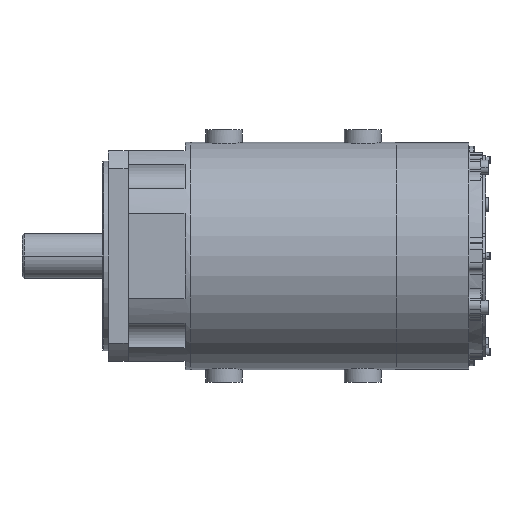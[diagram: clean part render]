
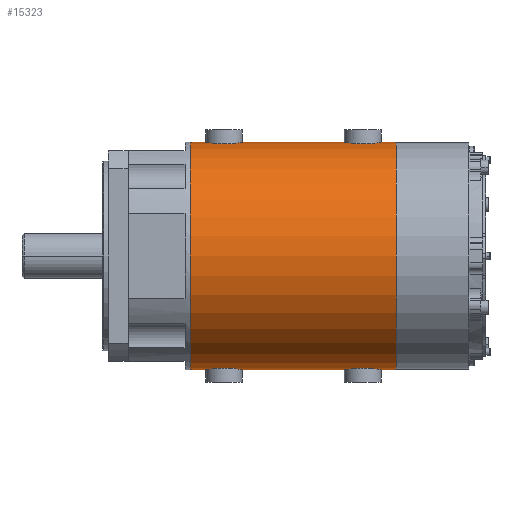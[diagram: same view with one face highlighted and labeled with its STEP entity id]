
A CAD part, front view. The second image highlights one B-rep face of the part: STEP entity #15323.
In plain terms, the highlighted cylindrical face has radius 108 mm (diameter 216 mm), a partial arc.
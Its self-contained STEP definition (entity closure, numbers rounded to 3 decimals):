
#12156=CARTESIAN_POINT('',(120.,0.,108.));
#12157=CARTESIAN_POINT('',(120.,-0.801,108.));
#12158=CARTESIAN_POINT('',(119.817,-2.364,
107.983));
#12159=CARTESIAN_POINT('',(118.944,-4.698,
107.905));
#12160=CARTESIAN_POINT('',(117.552,-6.697,
107.797));
#12161=CARTESIAN_POINT('',(115.777,-8.282,
107.685));
#12162=CARTESIAN_POINT('',(113.577,-9.45,
107.587));
#12163=CARTESIAN_POINT('',(111.175,-10.026,
107.534));
#12164=CARTESIAN_POINT('',(108.819,-10.025,
107.534));
#12165=CARTESIAN_POINT('',(106.42,-9.449,
107.587));
#12166=CARTESIAN_POINT('',(104.215,-8.277,
107.685));
#12167=CARTESIAN_POINT('',(102.435,-6.682,
107.798));
#12168=CARTESIAN_POINT('',(101.054,-4.691,
107.906));
#12169=CARTESIAN_POINT('',(100.183,-2.363,
107.983));
#12170=CARTESIAN_POINT('',(100.,-0.801,108.));
#12171=CARTESIAN_POINT('',(100.,0.,108.));
#12173=CARTESIAN_POINT('',(252.,0.,108.));
#12174=CARTESIAN_POINT('',(252.,-0.801,108.));
#12175=CARTESIAN_POINT('',(251.817,-2.364,
107.983));
#12176=CARTESIAN_POINT('',(250.944,-4.698,
107.905));
#12177=CARTESIAN_POINT('',(249.552,-6.697,
107.797));
#12178=CARTESIAN_POINT('',(247.777,-8.282,
107.685));
#12179=CARTESIAN_POINT('',(245.577,-9.45,
107.587));
#12180=CARTESIAN_POINT('',(243.175,-10.026,
107.534));
#12181=CARTESIAN_POINT('',(240.819,-10.025,
107.534));
#12182=CARTESIAN_POINT('',(238.42,-9.449,
107.587));
#12183=CARTESIAN_POINT('',(236.215,-8.277,
107.685));
#12184=CARTESIAN_POINT('',(234.435,-6.682,
107.798));
#12185=CARTESIAN_POINT('',(233.054,-4.691,
107.906));
#12186=CARTESIAN_POINT('',(232.183,-2.363,
107.983));
#12187=CARTESIAN_POINT('',(232.,-0.801,108.));
#12188=CARTESIAN_POINT('',(232.,0.,108.));
#12190=CARTESIAN_POINT('',(274.,0.,0.));
#12191=DIRECTION('',(1.,0.,0.));
#12192=DIRECTION('',(0.,0.,1.));
#12193=AXIS2_PLACEMENT_3D('',#12190,#12191,#12192);
#12195=DIRECTION('',(-1.,0.,0.));
#12196=VECTOR('',#12195,22.);
#12197=CARTESIAN_POINT('',(274.,0.,-108.));
#12198=LINE('',#12197,#12196);
#12199=CARTESIAN_POINT('',(232.,0.,-108.));
#12200=CARTESIAN_POINT('',(232.,-0.801,-108.));
#12201=CARTESIAN_POINT('',(232.183,-2.363,
-107.983));
#12202=CARTESIAN_POINT('',(233.054,-4.691,
-107.906));
#12203=CARTESIAN_POINT('',(234.435,-6.682,
-107.798));
#12204=CARTESIAN_POINT('',(236.215,-8.277,
-107.685));
#12205=CARTESIAN_POINT('',(238.419,-9.448,
-107.587));
#12206=CARTESIAN_POINT('',(240.818,-10.025,
-107.534));
#12207=CARTESIAN_POINT('',(243.175,-10.026,
-107.534));
#12208=CARTESIAN_POINT('',(245.577,-9.45,
-107.587));
#12209=CARTESIAN_POINT('',(247.777,-8.282,
-107.685));
#12210=CARTESIAN_POINT('',(249.552,-6.697,
-107.797));
#12211=CARTESIAN_POINT('',(250.944,-4.698,
-107.905));
#12212=CARTESIAN_POINT('',(251.817,-2.364,
-107.983));
#12213=CARTESIAN_POINT('',(252.,-0.801,-108.));
#12214=CARTESIAN_POINT('',(252.,0.,-108.));
#12216=DIRECTION('',(-1.,0.,0.));
#12217=VECTOR('',#12216,112.);
#12218=CARTESIAN_POINT('',(232.,0.,-108.));
#12219=LINE('',#12218,#12217);
#12220=CARTESIAN_POINT('',(100.,0.,-108.));
#12221=CARTESIAN_POINT('',(100.,-0.801,-108.));
#12222=CARTESIAN_POINT('',(100.183,-2.363,
-107.983));
#12223=CARTESIAN_POINT('',(101.054,-4.691,
-107.906));
#12224=CARTESIAN_POINT('',(102.435,-6.682,
-107.798));
#12225=CARTESIAN_POINT('',(104.215,-8.277,
-107.685));
#12226=CARTESIAN_POINT('',(106.419,-9.448,
-107.587));
#12227=CARTESIAN_POINT('',(108.818,-10.025,
-107.534));
#12228=CARTESIAN_POINT('',(111.175,-10.026,
-107.534));
#12229=CARTESIAN_POINT('',(113.577,-9.45,
-107.587));
#12230=CARTESIAN_POINT('',(115.777,-8.282,
-107.685));
#12231=CARTESIAN_POINT('',(117.552,-6.697,
-107.797));
#12232=CARTESIAN_POINT('',(118.944,-4.698,
-107.905));
#12233=CARTESIAN_POINT('',(119.817,-2.364,
-107.983));
#12234=CARTESIAN_POINT('',(120.,-0.801,-108.));
#12235=CARTESIAN_POINT('',(120.,0.,-108.));
#12237=DIRECTION('',(-1.,0.,0.));
#12238=VECTOR('',#12237,22.);
#12239=CARTESIAN_POINT('',(100.,0.,-108.));
#12240=LINE('',#12239,#12238);
#12241=CARTESIAN_POINT('',(78.,0.,0.));
#12242=DIRECTION('',(-1.,0.,0.));
#12243=DIRECTION('',(0.,0.,-1.));
#12244=AXIS2_PLACEMENT_3D('',#12241,#12242,#12243);
#14921=DIRECTION('',(-1.,0.,0.));
#14922=VECTOR('',#14921,22.);
#14923=CARTESIAN_POINT('',(100.,0.,108.));
#14924=LINE('',#14923,#14922);
#14969=DIRECTION('',(-1.,0.,0.));
#14970=VECTOR('',#14969,22.);
#14971=CARTESIAN_POINT('',(274.,0.,108.));
#14972=LINE('',#14971,#14970);
#14990=DIRECTION('',(-1.,0.,0.));
#14991=VECTOR('',#14990,112.);
#14992=CARTESIAN_POINT('',(232.,0.,108.));
#14993=LINE('',#14992,#14991);
#15030=CARTESIAN_POINT('',(274.,0.,-108.));
#15031=CARTESIAN_POINT('',(274.,0.,108.));
#15032=VERTEX_POINT('',#15030);
#15033=VERTEX_POINT('',#15031);
#15034=CARTESIAN_POINT('',(78.,0.,-108.));
#15035=CARTESIAN_POINT('',(78.,0.,108.));
#15036=VERTEX_POINT('',#15034);
#15037=VERTEX_POINT('',#15035);
#15268=VERTEX_POINT('',#12220);
#15269=VERTEX_POINT('',#12235);
#15270=VERTEX_POINT('',#12199);
#15271=VERTEX_POINT('',#12214);
#15276=CARTESIAN_POINT('',(120.,0.,108.));
#15278=VERTEX_POINT('',#15276);
#15280=CARTESIAN_POINT('',(100.,0.,108.));
#15282=VERTEX_POINT('',#15280);
#15284=CARTESIAN_POINT('',(252.,0.,108.));
#15286=VERTEX_POINT('',#15284);
#15288=CARTESIAN_POINT('',(232.,0.,108.));
#15290=VERTEX_POINT('',#15288);
#15292=CARTESIAN_POINT('',(274.,0.,0.));
#15293=DIRECTION('',(-1.,0.,0.));
#15294=DIRECTION('',(0.,0.,-1.));
#15295=AXIS2_PLACEMENT_3D('',#15292,#15293,#15294);
#15296=CYLINDRICAL_SURFACE('',#15295,108.);
#15298=ORIENTED_EDGE('',*,*,#15297,.F.);
#15300=ORIENTED_EDGE('',*,*,#15299,.F.);
#15302=ORIENTED_EDGE('',*,*,#15301,.F.);
#15304=ORIENTED_EDGE('',*,*,#15303,.F.);
#15306=ORIENTED_EDGE('',*,*,#15305,.T.);
#15308=ORIENTED_EDGE('',*,*,#15307,.T.);
#15310=ORIENTED_EDGE('',*,*,#15309,.F.);
#15312=ORIENTED_EDGE('',*,*,#15311,.T.);
#15314=ORIENTED_EDGE('',*,*,#15313,.F.);
#15316=ORIENTED_EDGE('',*,*,#15315,.T.);
#15318=ORIENTED_EDGE('',*,*,#15317,.T.);
#15320=ORIENTED_EDGE('',*,*,#15319,.F.);
#15321=EDGE_LOOP('',(#15298,#15300,#15302,#15304,#15306,#15308,#15310,#15312,
#15314,#15316,#15318,#15320));
#15322=FACE_OUTER_BOUND('',#15321,.F.);
#15323=ADVANCED_FACE('',(#15322),#15296,.T.);
#12172=B_SPLINE_CURVE_WITH_KNOTS('',3,(#12156,#12157,#12158,#12159,#12160,
#12161,#12162,#12163,#12164,#12165,#12166,#12167,#12168,#12169,#12170,#12171),
.UNSPECIFIED.,.F.,.F.,(4,1,1,1,1,1,1,1,1,1,1,1,1,4),(0.,0.077,
0.154,0.231,0.308,0.385,
0.462,0.538,0.615,0.692,
0.769,0.846,0.923,1.),.UNSPECIFIED.);
#12189=B_SPLINE_CURVE_WITH_KNOTS('',3,(#12173,#12174,#12175,#12176,#12177,
#12178,#12179,#12180,#12181,#12182,#12183,#12184,#12185,#12186,#12187,#12188),
.UNSPECIFIED.,.F.,.F.,(4,1,1,1,1,1,1,1,1,1,1,1,1,4),(0.,0.077,
0.154,0.231,0.308,0.385,
0.462,0.538,0.615,0.692,
0.769,0.846,0.923,1.),.UNSPECIFIED.);
#12194=CIRCLE('',#12193,108.);
#12215=B_SPLINE_CURVE_WITH_KNOTS('',3,(#12199,#12200,#12201,#12202,#12203,
#12204,#12205,#12206,#12207,#12208,#12209,#12210,#12211,#12212,#12213,#12214),
.UNSPECIFIED.,.F.,.F.,(4,1,1,1,1,1,1,1,1,1,1,1,1,4),(0.,0.077,
0.154,0.231,0.308,0.385,
0.462,0.538,0.615,0.692,
0.769,0.846,0.923,1.),.UNSPECIFIED.);
#12236=B_SPLINE_CURVE_WITH_KNOTS('',3,(#12220,#12221,#12222,#12223,#12224,
#12225,#12226,#12227,#12228,#12229,#12230,#12231,#12232,#12233,#12234,#12235),
.UNSPECIFIED.,.F.,.F.,(4,1,1,1,1,1,1,1,1,1,1,1,1,4),(0.,0.077,
0.154,0.231,0.308,0.385,
0.462,0.538,0.615,0.692,
0.769,0.846,0.923,1.),.UNSPECIFIED.);
#12245=CIRCLE('',#12244,108.);
#15297=EDGE_CURVE('',#15278,#15282,#12172,.T.);
#15299=EDGE_CURVE('',#15290,#15278,#14993,.T.);
#15301=EDGE_CURVE('',#15286,#15290,#12189,.T.);
#15303=EDGE_CURVE('',#15033,#15286,#14972,.T.);
#15305=EDGE_CURVE('',#15033,#15032,#12194,.T.);
#15307=EDGE_CURVE('',#15032,#15271,#12198,.T.);
#15309=EDGE_CURVE('',#15270,#15271,#12215,.T.);
#15311=EDGE_CURVE('',#15270,#15269,#12219,.T.);
#15313=EDGE_CURVE('',#15268,#15269,#12236,.T.);
#15315=EDGE_CURVE('',#15268,#15036,#12240,.T.);
#15317=EDGE_CURVE('',#15036,#15037,#12245,.T.);
#15319=EDGE_CURVE('',#15282,#15037,#14924,.T.);
